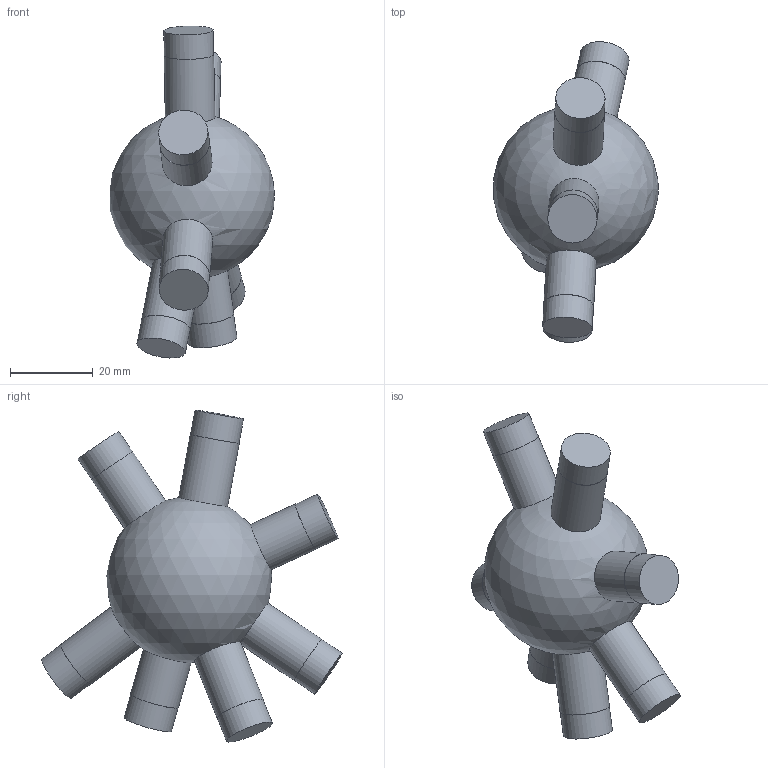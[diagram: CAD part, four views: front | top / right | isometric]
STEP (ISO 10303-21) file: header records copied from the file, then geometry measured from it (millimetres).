
FILE_DESCRIPTION(('Open CASCADE Model'),'2;1');
FILE_NAME('Open CASCADE Shape Model','2026-10-21T12:47:57',('Author'),( 'Open CASCADE'),'Open CASCADE STEP processor 7.9','Open CASCADE 7.9' ,'Unknown');
FILE_SCHEMA(('AUTOMOTIVE_DESIGN { 1 0 10303 214 1 1 1 1 }'));
Length unit declared in the file: millimetre
Products named in the file (1): Open CASCADE STEP translator 7.9 46
Bounding box: 39.82 x 72.61 x 80.2 mm (x, y, z)
Volume: 49027.4 mm3; surface area: 10315.9 mm2
Topology: 1 solids, 1 shells, 29 faces, 48 edges, 32 vertices
Faces by surface type: cylinder 14, plane 14, sphere 1
Full cylindrical faces by diameter (mm): 11.9 x7, 12 x7
Entity records: 1978 total; most frequent: CARTESIAN_POINT 890, DIRECTION 224, ORIENTED_EDGE 94, PCURVE 94, DEFINITIONAL_REPRESENTATION 94, LINE 77, VECTOR 77, AXIS2_PLACEMENT_3D 63
